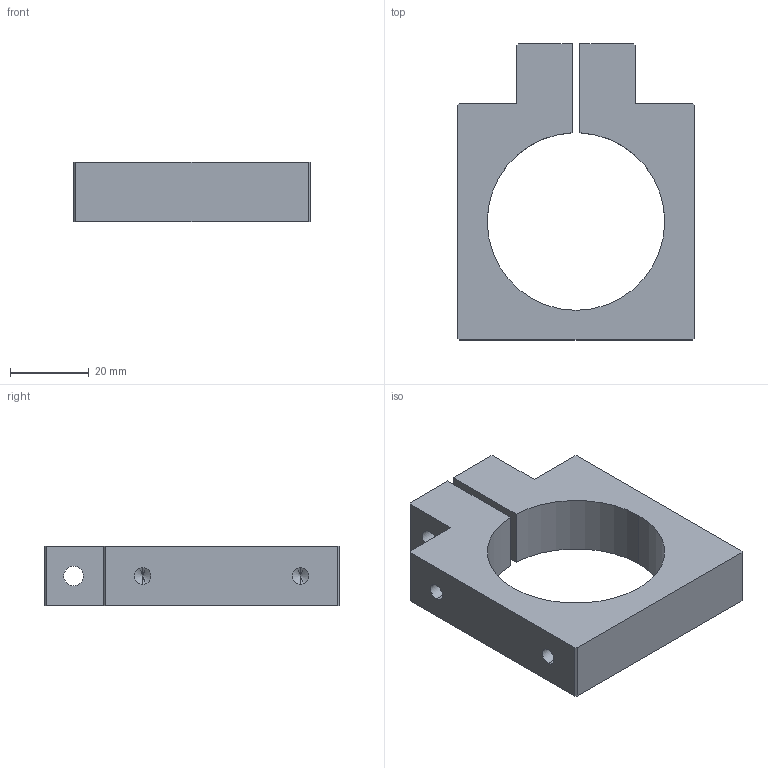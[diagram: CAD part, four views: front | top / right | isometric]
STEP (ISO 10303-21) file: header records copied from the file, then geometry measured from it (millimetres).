
FILE_DESCRIPTION (( 'STEP AP214' ), '1' );
FILE_NAME ('SCE4-NR20.STEP', '2019-11-19T02:20:20', ( '微软用户' ), ( '微软中国' ), 'SwSTEP 2.0', 'SolidWorks 2016', '' );
FILE_SCHEMA (( 'AUTOMOTIVE_DESIGN' ));
Length unit declared in the file: millimetre
Products named in the file (1): SCE4-NR20
Bounding box: 60 x 75 x 15 mm (x, y, z)
Volume: 34890.1 mm3; surface area: 12524.7 mm2
Topology: 1 solids, 1 shells, 42 faces, 112 edges, 68 vertices
Faces by surface type: plane 19, cylinder 15, cone 8
Entity records: 1398 total; most frequent: DIRECTION 220, CARTESIAN_POINT 215, ORIENTED_EDGE 208, EDGE_CURVE 104, LINE 74, VECTOR 74, AXIS2_PLACEMENT_3D 73, VERTEX_POINT 68
